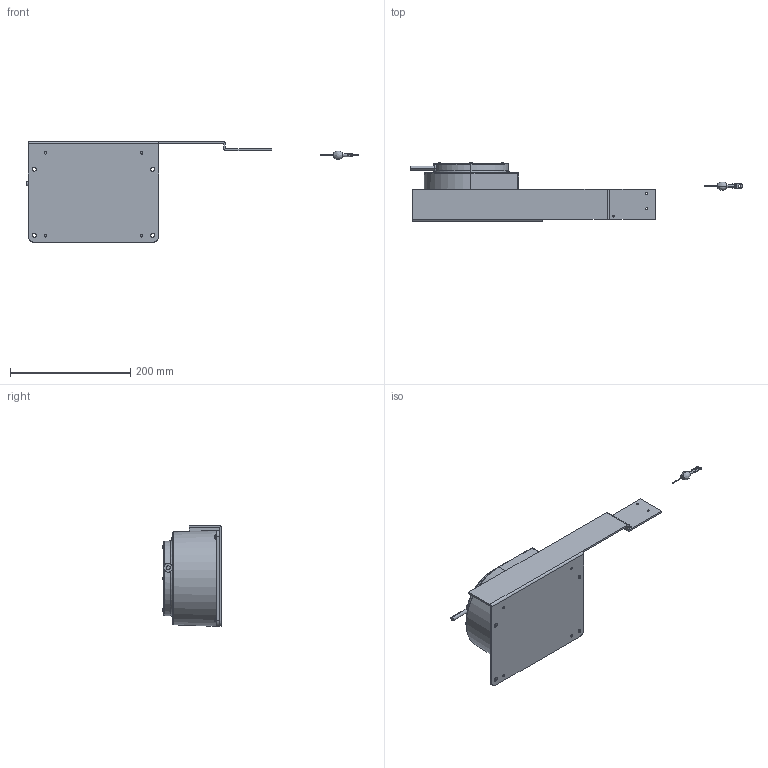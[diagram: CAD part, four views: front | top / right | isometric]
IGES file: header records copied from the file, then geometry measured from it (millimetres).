
Start section: SolidWorks IGES file using analytic representation for surfaces
Bounding box: 552.74 x 98.2 x 168 mm (x, y, z)
Surface area: 233807.9 mm2 (no closed solid volume)
Topology: 0 solids, 0 shells, 403 faces, 6041 edges, 6040 vertices
Faces by surface type: bspline 250, revolution 153
